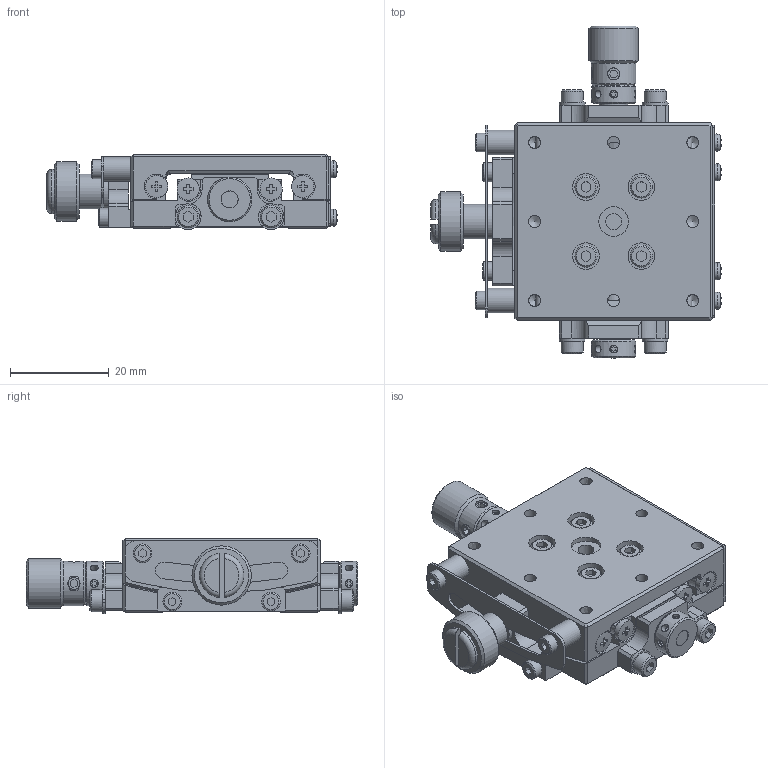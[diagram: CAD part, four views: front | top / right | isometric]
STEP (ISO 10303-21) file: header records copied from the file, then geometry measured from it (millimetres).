
FILE_DESCRIPTION((''),'2;1');
FILE_NAME('S:\1規格品図面ﾃﾞｰﾀ\OpticalHard\01_国内製品\1_Stags\GOHT\40\GOHT-40A60\GOHT-40A60.stp','2007-08-24T12:01:39',('okegawa'),(''),'Autodesk Inventor 11','Autodesk Inventor 11','');
FILE_SCHEMA(('AUTOMOTIVE_DESIGN { 1 0 10303 214 1 1 1 1 }'));
Length unit declared in the file: millimetre
Products named in the file (3): GOHT40A60-M02-06001-S11; GOHT40A60-M02-06001-S09; GOHT40A60-M02-06001-S10
Assembly tree (2 placements, depth 2):
  GOHT40A60-M02-06001-S11
    GOHT40A60-M02-06001-S09
    GOHT40A60-M02-06001-S10
Bounding box: 58.74 x 67.2 x 15.21 mm (x, y, z)
Volume: 23666.4 mm3; surface area: 17830.4 mm2
Topology: 46 solids, 63 shells, 1069 faces, 2635 edges, 1704 vertices
Faces by surface type: plane 606, cylinder 184, bspline 163, cone 72, sphere 28, torus 16
Full cylindrical faces by diameter (mm): 1.5 x8, 1.567 x4, 2 x9, 2.459 x2, 2.5 x12, 3 x2, 3.5 x4, 3.8 x4, 4 x5, 4.2 x1, 4.5 x16, 5 x2, 5.28 x4, 5.4 x1, 5.8 x3, 6 x5, 6.72 x4, 7 x2, 9 x3, 10 x1, 12 x1
Entity records: 33632 total; most frequent: CARTESIAN_POINT 11048, DIRECTION 4548, ORIENTED_EDGE 4208, EDGE_CURVE 2104, AXIS2_PLACEMENT_3D 1694, EDGE_LOOP 1519, VERTEX_POINT 1511, VECTOR 1160
